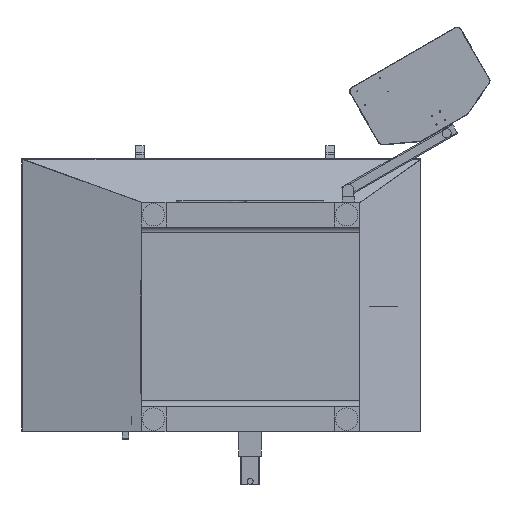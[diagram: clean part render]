
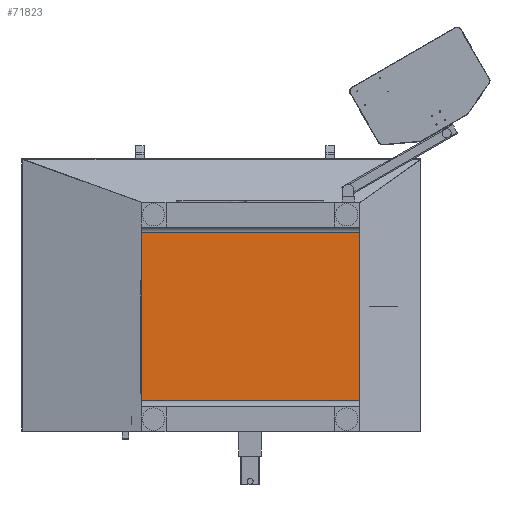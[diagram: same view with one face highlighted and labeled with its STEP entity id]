
A CAD part, front view. The second image highlights one B-rep face of the part: STEP entity #71823.
In plain terms, the highlighted planar face has unit normal (0, -1, 0).
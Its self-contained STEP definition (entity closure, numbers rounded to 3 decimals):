
#377 = LINE ( 'NONE', #84188, #20958 ) ;
#1222 = DIRECTION ( 'NONE',  ( 1., 0., 0. ) ) ;
#1847 = AXIS2_PLACEMENT_3D ( 'NONE', #2251, #56505, #9999 ) ;
#1908 = VERTEX_POINT ( 'NONE', #96273 ) ;
#2251 = CARTESIAN_POINT ( 'NONE',  ( 104., -449., -2132.231 ) ) ;
#3965 = DIRECTION ( 'NONE',  ( 1., 0., 0. ) ) ;
#5640 = ORIENTED_EDGE ( 'NONE', *, *, #30688, .F. ) ;
#8722 = DIRECTION ( 'NONE',  ( 0., 0., -1. ) ) ;
#9011 = EDGE_LOOP ( 'NONE', ( #5640, #12761, #98210, #70682 ) ) ;
#9999 = DIRECTION ( 'NONE',  ( 1., 0., 0. ) ) ;
#11338 = VECTOR ( 'NONE', #1222, 1000. ) ;
#11824 = VERTEX_POINT ( 'NONE', #23527 ) ;
#12761 = ORIENTED_EDGE ( 'NONE', *, *, #53872, .T. ) ;
#16985 = EDGE_CURVE ( 'NONE', #66349, #11824, #377, .T. ) ;
#20958 = VECTOR ( 'NONE', #29935, 1000. ) ;
#22060 = CARTESIAN_POINT ( 'NONE',  ( 844., -449., -960. ) ) ;
#23527 = CARTESIAN_POINT ( 'NONE',  ( 844., -449., 0. ) ) ;
#29935 = DIRECTION ( 'NONE',  ( 0., 0., 1. ) ) ;
#30688 = EDGE_CURVE ( 'NONE', #82070, #11824, #70839, .T. ) ;
#31435 = FACE_OUTER_BOUND ( 'NONE', #9011, .T. ) ;
#47655 = CARTESIAN_POINT ( 'NONE',  ( 104., -449., 0. ) ) ;
#48010 = EDGE_CURVE ( 'NONE', #1908, #66349, #74294, .T. ) ;
#48843 = VECTOR ( 'NONE', #8722, 1000. ) ;
#51297 = LINE ( 'NONE', #55211, #48843 ) ;
#53872 = EDGE_CURVE ( 'NONE', #82070, #1908, #51297, .T. ) ;
#55211 = CARTESIAN_POINT ( 'NONE',  ( 104., -449., -2132.231 ) ) ;
#56505 = DIRECTION ( 'NONE',  ( 0., -1., 0. ) ) ;
#63987 = PLANE ( 'NONE',  #1847 ) ;
#66349 = VERTEX_POINT ( 'NONE', #22060 ) ;
#70682 = ORIENTED_EDGE ( 'NONE', *, *, #16985, .T. ) ;
#70839 = LINE ( 'NONE', #47655, #11338 ) ;
#71823 = ADVANCED_FACE ( 'NONE', ( #31435 ), #63987, .T. ) ;
#74294 = LINE ( 'NONE', #96916, #94904 ) ;
#82070 = VERTEX_POINT ( 'NONE', #96379 ) ;
#84188 = CARTESIAN_POINT ( 'NONE',  ( 844., -449., -2132.231 ) ) ;
#94904 = VECTOR ( 'NONE', #3965, 1000. ) ;
#96273 = CARTESIAN_POINT ( 'NONE',  ( 104., -449., -960. ) ) ;
#96379 = CARTESIAN_POINT ( 'NONE',  ( 104., -449., 0. ) ) ;
#96916 = CARTESIAN_POINT ( 'NONE',  ( 979., -449., -960. ) ) ;
#98210 = ORIENTED_EDGE ( 'NONE', *, *, #48010, .T. ) ;
